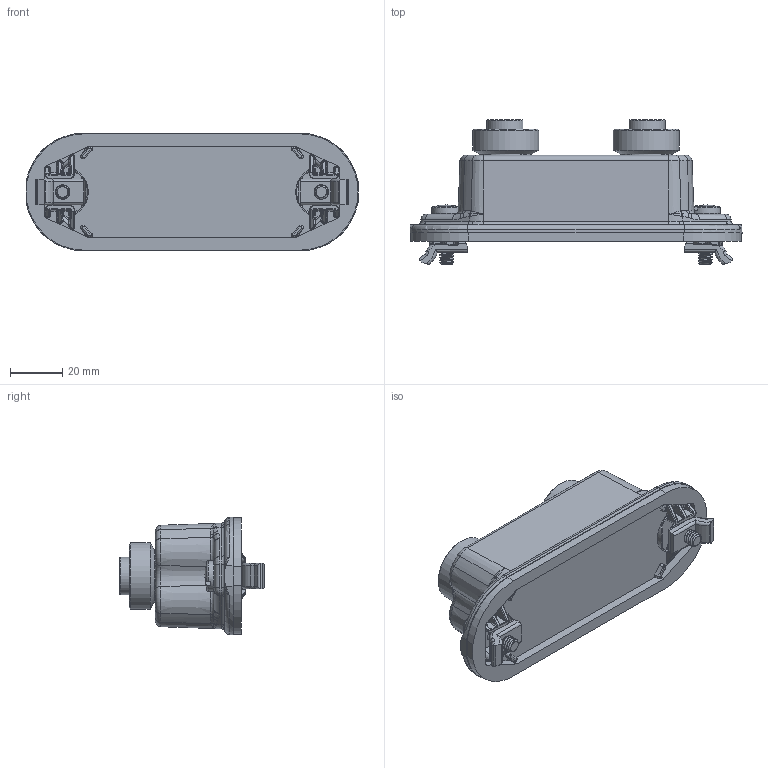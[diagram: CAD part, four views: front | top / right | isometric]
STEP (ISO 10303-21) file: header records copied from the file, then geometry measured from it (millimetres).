
FILE_DESCRIPTION(/* description */ ('PART (MM)'),/* implementation_level */ '2;1');
FILE_NAME(/* name */ 'L:\CAD Inventor\Workspace\Catalogs\TURCK BOXES\BCA1-F7-57-M223.stp',/* time_stamp */ '2021-11-30T12:30:50-06:00',/* author */ ('RSwans'),/* organization */ (''),/* preprocessor_version */ 'ST-DEVELOPER v16.5',/* originating_system */ 'Autodesk Inventor 2017',/* authorisation */ '');
FILE_SCHEMA (('AUTOMOTIVE_DESIGN { 1 0 10303 214 3 1 1 }'));
Products named in the file (1): Part10
Bounding box: 126.95 x 55.24 x 45.03 mm (x, y, z)
Volume: 62262.1 mm3; surface area: 43971.4 mm2
Topology: 1 solids, 14 shells, 1799 faces, 4315 edges, 2474 vertices
Faces by surface type: bspline 588, cylinder 448, plane 309, cone 199, torus 175, sphere 80
Full cylindrical faces by diameter (mm): 1.9 x10, 3.2 x10, 3.3 x10, 11.532 x2, 14 x6, 14.2 x4, 16 x2, 18 x2, 20 x2, 20.5 x2, 22.5 x2, 25.4 x2
Entity records: 81968 total; most frequent: CARTESIAN_POINT 43979, ORIENTED_EDGE 8090, DIRECTION 7615, EDGE_CURVE 4037, AXIS2_PLACEMENT_3D 3255, VERTEX_POINT 2429, EDGE_LOOP 1982, FACE_OUTER_BOUND 1798
